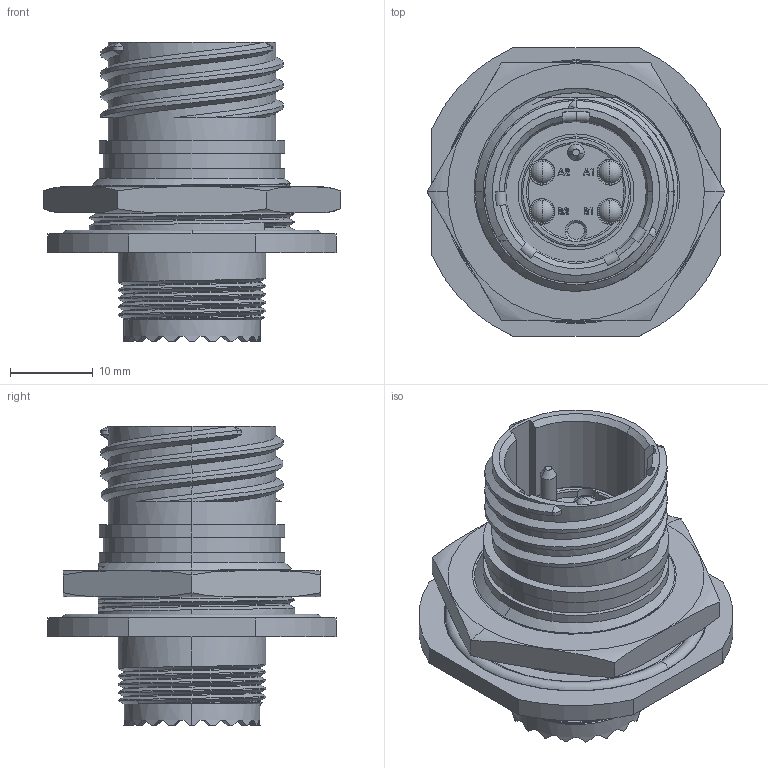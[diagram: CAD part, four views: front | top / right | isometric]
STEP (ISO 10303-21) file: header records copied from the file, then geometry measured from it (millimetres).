
FILE_DESCRIPTION (( 'STEP AP214' ), '1' );
FILE_NAME ('Q38EB-RJX-13XX-X-R0.STEP', '2025-12-12T16:18:10', ( '' ), ( '' ), 'SwSTEP 2.0', 'SolidWorks 2024', '' );
FILE_SCHEMA (( 'AUTOMOTIVE_DESIGN' ));
Length unit declared in the file: millimetre
Products named in the file (1): Q38EB-RJX-13XX-X-R0
Bounding box: 36.08 x 34.9 x 36.32 mm (x, y, z)
Volume: 11165.9 mm3; surface area: 9550.4 mm2
Topology: 4 solids, 4 shells, 491 faces, 1291 edges, 833 vertices
Faces by surface type: plane 216, cylinder 141, bspline 61, cone 34, torus 31, sphere 8
Entity records: 23567 total; most frequent: CARTESIAN_POINT 12319, ORIENTED_EDGE 2564, DIRECTION 2116, EDGE_CURVE 1282, VERTEX_POINT 833, AXIS2_PLACEMENT_3D 791, VECTOR 534, LINE 534
